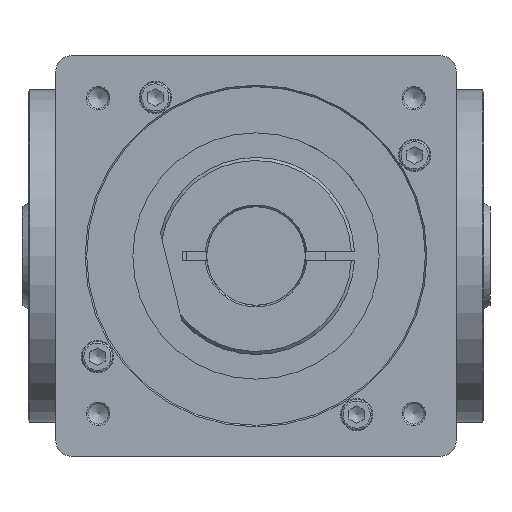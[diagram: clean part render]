
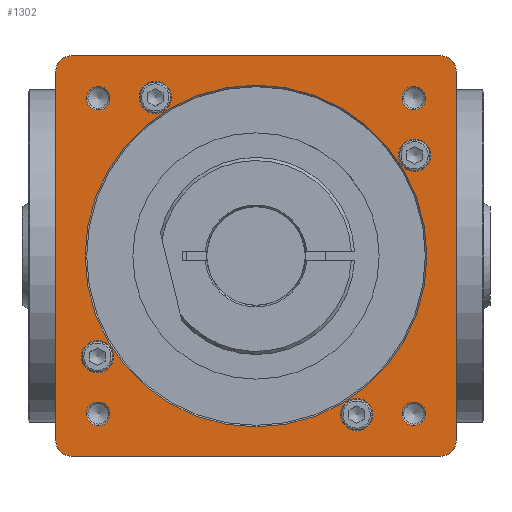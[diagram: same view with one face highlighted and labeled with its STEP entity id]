
A CAD part, front view. The second image highlights one B-rep face of the part: STEP entity #1302.
In plain terms, the highlighted planar face has unit normal (0, -1, 0).
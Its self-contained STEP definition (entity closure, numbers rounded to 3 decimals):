
#989=CARTESIAN_POINT('',(-37.95,-217.5,51.5));
#990=VERTEX_POINT('',#989);
#991=CARTESIAN_POINT('',(-32.7,-217.5,51.5));
#992=DIRECTION('',(0.0,1.0,0.0));
#993=DIRECTION('',(-1.0,0.0,0.0));
#994=AXIS2_PLACEMENT_3D('',#991,#992,#993);
#995=CIRCLE('',#994,5.25);
#996=EDGE_CURVE('',#990,#990,#995,.T.);
#1037=CARTESIAN_POINT('',(51.5,-217.5,37.95));
#1038=VERTEX_POINT('',#1037);
#1039=CARTESIAN_POINT('',(51.5,-217.5,32.7));
#1040=DIRECTION('',(0.0,1.0,0.0));
#1041=DIRECTION('',(0.0,0.0,1.0));
#1042=AXIS2_PLACEMENT_3D('',#1039,#1040,#1041);
#1043=CIRCLE('',#1042,5.25);
#1044=EDGE_CURVE('',#1038,#1038,#1043,.T.);
#1077=CARTESIAN_POINT('',(37.95,-217.5,-51.5));
#1078=VERTEX_POINT('',#1077);
#1079=CARTESIAN_POINT('',(32.7,-217.5,-51.5));
#1080=DIRECTION('',(0.0,1.0,0.0));
#1081=DIRECTION('',(1.0,0.0,0.0));
#1082=AXIS2_PLACEMENT_3D('',#1079,#1080,#1081);
#1083=CIRCLE('',#1082,5.25);
#1084=EDGE_CURVE('',#1078,#1078,#1083,.T.);
#1125=CARTESIAN_POINT('',(-51.5,-217.5,-37.95));
#1126=VERTEX_POINT('',#1125);
#1127=CARTESIAN_POINT('',(-51.5,-217.5,-32.7));
#1128=DIRECTION('',(0.0,1.0,0.0));
#1129=DIRECTION('',(0.0,0.0,-1.0));
#1130=AXIS2_PLACEMENT_3D('',#1127,#1128,#1129);
#1131=CIRCLE('',#1130,5.25);
#1132=EDGE_CURVE('',#1126,#1126,#1131,.T.);
#1156=CARTESIAN_POINT('',(-51.265,-217.5,-55.089));
#1157=VERTEX_POINT('',#1156);
#1158=CARTESIAN_POINT('',(-51.265,-217.5,-51.265));
#1159=DIRECTION('',(0.0,-1.0,0.0));
#1160=DIRECTION('',(0.0,0.0,1.0));
#1161=AXIS2_PLACEMENT_3D('',#1158,#1159,#1160);
#1162=CIRCLE('',#1161,3.823);
#1163=EDGE_CURVE('',#1157,#1157,#1162,.T.);
#1168=CARTESIAN_POINT('',(0.,-217.5,0.));
#1169=DIRECTION('',(0.0,-1.0,0.0));
#1170=DIRECTION('',(0.0,0.0,-1.0));
#1171=AXIS2_PLACEMENT_3D('',#1168,#1169,#1170);
#1172=PLANE('',#1171);
#1173=CARTESIAN_POINT('',(65.0,-217.5,-60.));
#1174=VERTEX_POINT('',#1173);
#1175=CARTESIAN_POINT('',(60.0,-217.5,-65.));
#1176=VERTEX_POINT('',#1175);
#1177=CARTESIAN_POINT('',(60.0,-217.5,-60.));
#1178=DIRECTION('',(0.0,1.0,0.0));
#1179=DIRECTION('',(0.0,0.0,1.0));
#1180=AXIS2_PLACEMENT_3D('',#1177,#1178,#1179);
#1181=CIRCLE('',#1180,5.0);
#1182=EDGE_CURVE('',#1174,#1176,#1181,.T.);
#1183=ORIENTED_EDGE('',*,*,#1182,.F.);
#1184=CARTESIAN_POINT('',(65.,-217.5,60.));
#1185=VERTEX_POINT('',#1184);
#1186=CARTESIAN_POINT('',(65.,-217.5,60.));
#1187=DIRECTION('',(0.0,0.0,-1.0));
#1188=VECTOR('',#1187,120.0);
#1189=LINE('',#1186,#1188);
#1190=EDGE_CURVE('',#1185,#1174,#1189,.T.);
#1191=ORIENTED_EDGE('',*,*,#1190,.F.);
#1192=CARTESIAN_POINT('',(60.,-217.5,65.));
#1193=VERTEX_POINT('',#1192);
#1194=CARTESIAN_POINT('',(60.,-217.5,60.));
#1195=DIRECTION('',(0.0,1.0,0.0));
#1196=DIRECTION('',(-1.0,0.0,0.0));
#1197=AXIS2_PLACEMENT_3D('',#1194,#1195,#1196);
#1198=CIRCLE('',#1197,5.0);
#1199=EDGE_CURVE('',#1193,#1185,#1198,.T.);
#1200=ORIENTED_EDGE('',*,*,#1199,.F.);
#1201=CARTESIAN_POINT('',(-60.,-217.5,65.));
#1202=VERTEX_POINT('',#1201);
#1203=CARTESIAN_POINT('',(-60.,-217.5,65.));
#1204=DIRECTION('',(1.0,0.0,0.0));
#1205=VECTOR('',#1204,120.0);
#1206=LINE('',#1203,#1205);
#1207=EDGE_CURVE('',#1202,#1193,#1206,.T.);
#1208=ORIENTED_EDGE('',*,*,#1207,.F.);
#1209=CARTESIAN_POINT('',(-65.,-217.5,60.));
#1210=VERTEX_POINT('',#1209);
#1211=CARTESIAN_POINT('',(-60.,-217.5,60.));
#1212=DIRECTION('',(0.0,1.0,0.0));
#1213=DIRECTION('',(0.0,0.0,-1.0));
#1214=AXIS2_PLACEMENT_3D('',#1211,#1212,#1213);
#1215=CIRCLE('',#1214,5.0);
#1216=EDGE_CURVE('',#1210,#1202,#1215,.T.);
#1217=ORIENTED_EDGE('',*,*,#1216,.F.);
#1218=CARTESIAN_POINT('',(-65.,-217.5,-60.));
#1219=VERTEX_POINT('',#1218);
#1220=CARTESIAN_POINT('',(-65.,-217.5,-60.));
#1221=DIRECTION('',(0.0,0.0,1.0));
#1222=VECTOR('',#1221,120.0);
#1223=LINE('',#1220,#1222);
#1224=EDGE_CURVE('',#1219,#1210,#1223,.T.);
#1225=ORIENTED_EDGE('',*,*,#1224,.F.);
#1226=CARTESIAN_POINT('',(-60.,-217.5,-65.));
#1227=VERTEX_POINT('',#1226);
#1228=CARTESIAN_POINT('',(-60.,-217.5,-60.));
#1229=DIRECTION('',(0.0,1.0,0.0));
#1230=DIRECTION('',(1.0,0.0,0.0));
#1231=AXIS2_PLACEMENT_3D('',#1228,#1229,#1230);
#1232=CIRCLE('',#1231,5.0);
#1233=EDGE_CURVE('',#1227,#1219,#1232,.T.);
#1234=ORIENTED_EDGE('',*,*,#1233,.F.);
#1235=CARTESIAN_POINT('',(60.0,-217.5,-65.));
#1236=DIRECTION('',(-1.0,0.0,0.0));
#1237=VECTOR('',#1236,120.0);
#1238=LINE('',#1235,#1237);
#1239=EDGE_CURVE('',#1176,#1227,#1238,.T.);
#1240=ORIENTED_EDGE('',*,*,#1239,.F.);
#1241=EDGE_LOOP('',(#1183,#1191,#1200,#1208,#1217,#1225,#1234,#1240));
#1242=FACE_OUTER_BOUND('',#1241,.T.);
#1243=ORIENTED_EDGE('',*,*,#996,.T.);
#1244=EDGE_LOOP('',(#1243));
#1245=FACE_BOUND('',#1244,.T.);
#1246=ORIENTED_EDGE('',*,*,#1044,.T.);
#1247=EDGE_LOOP('',(#1246));
#1248=FACE_BOUND('',#1247,.T.);
#1249=ORIENTED_EDGE('',*,*,#1084,.T.);
#1250=EDGE_LOOP('',(#1249));
#1251=FACE_BOUND('',#1250,.T.);
#1252=ORIENTED_EDGE('',*,*,#1132,.T.);
#1253=EDGE_LOOP('',(#1252));
#1254=FACE_BOUND('',#1253,.T.);
#1255=CARTESIAN_POINT('',(51.265,-217.5,-55.089));
#1256=VERTEX_POINT('',#1255);
#1257=CARTESIAN_POINT('',(51.265,-217.5,-51.265));
#1258=DIRECTION('',(0.0,-1.0,0.0));
#1259=DIRECTION('',(0.0,0.0,1.0));
#1260=AXIS2_PLACEMENT_3D('',#1257,#1258,#1259);
#1261=CIRCLE('',#1260,3.823);
#1262=EDGE_CURVE('',#1256,#1256,#1261,.T.);
#1263=ORIENTED_EDGE('',*,*,#1262,.F.);
#1264=EDGE_LOOP('',(#1263));
#1265=FACE_BOUND('',#1264,.T.);
#1266=CARTESIAN_POINT('',(-51.265,-217.5,47.442));
#1267=VERTEX_POINT('',#1266);
#1268=CARTESIAN_POINT('',(-51.265,-217.5,51.265));
#1269=DIRECTION('',(0.0,-1.0,0.0));
#1270=DIRECTION('',(0.0,0.0,1.0));
#1271=AXIS2_PLACEMENT_3D('',#1268,#1269,#1270);
#1272=CIRCLE('',#1271,3.823);
#1273=EDGE_CURVE('',#1267,#1267,#1272,.T.);
#1274=ORIENTED_EDGE('',*,*,#1273,.F.);
#1275=EDGE_LOOP('',(#1274));
#1276=FACE_BOUND('',#1275,.T.);
#1277=CARTESIAN_POINT('',(0.,-217.5,-55.5));
#1278=VERTEX_POINT('',#1277);
#1279=CARTESIAN_POINT('',(0.,-217.5,0.));
#1280=DIRECTION('',(0.0,1.0,0.0));
#1281=DIRECTION('',(0.0,0.0,-1.0));
#1282=AXIS2_PLACEMENT_3D('',#1279,#1280,#1281);
#1283=CIRCLE('',#1282,55.5);
#1284=EDGE_CURVE('',#1278,#1278,#1283,.T.);
#1285=ORIENTED_EDGE('',*,*,#1284,.T.);
#1286=EDGE_LOOP('',(#1285));
#1287=FACE_BOUND('',#1286,.T.);
#1288=CARTESIAN_POINT('',(51.265,-217.5,47.442));
#1289=VERTEX_POINT('',#1288);
#1290=CARTESIAN_POINT('',(51.265,-217.5,51.265));
#1291=DIRECTION('',(0.0,-1.0,0.0));
#1292=DIRECTION('',(0.0,0.0,1.0));
#1293=AXIS2_PLACEMENT_3D('',#1290,#1291,#1292);
#1294=CIRCLE('',#1293,3.823);
#1295=EDGE_CURVE('',#1289,#1289,#1294,.T.);
#1296=ORIENTED_EDGE('',*,*,#1295,.F.);
#1297=EDGE_LOOP('',(#1296));
#1298=FACE_BOUND('',#1297,.T.);
#1299=ORIENTED_EDGE('',*,*,#1163,.F.);
#1300=EDGE_LOOP('',(#1299));
#1301=FACE_BOUND('',#1300,.T.);
#1302=ADVANCED_FACE('',(#1242,#1245,#1248,#1251,#1254,#1265,#1276,#1287,#1298,#1301),#1172,.T.);
